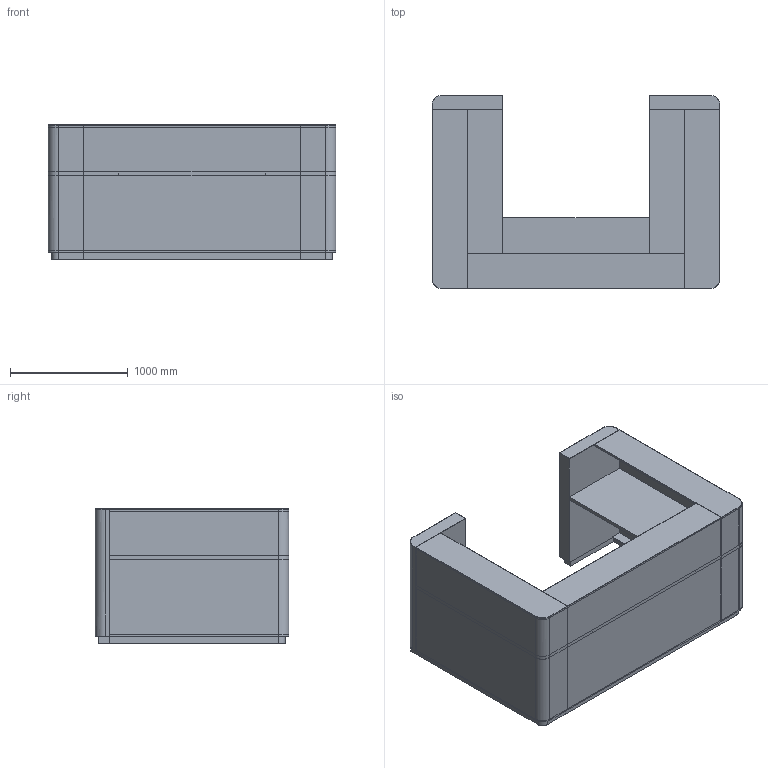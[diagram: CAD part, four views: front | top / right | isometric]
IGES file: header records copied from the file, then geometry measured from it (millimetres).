
Start section: Comment
Global section: file name: U-Form - 244 x 164.igs; native system:  By UGS Corp.; preprocessor: XPlus GENERIC/IGES 3.0; author: Author; organization: Title; date: 20181120.111822; units: inch
Bounding box: 2440 x 1640 x 1140.01 mm (x, y, z)
Surface area: 27900666.6 mm2 (no closed solid volume)
Topology: 0 solids, 0 shells, 139 faces, 720 edges, 720 vertices
Faces by surface type: bspline 139
